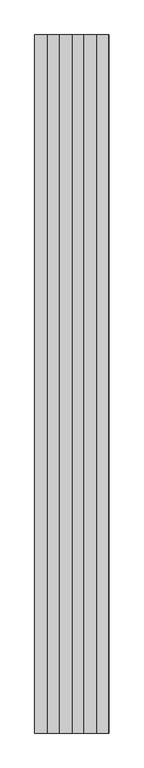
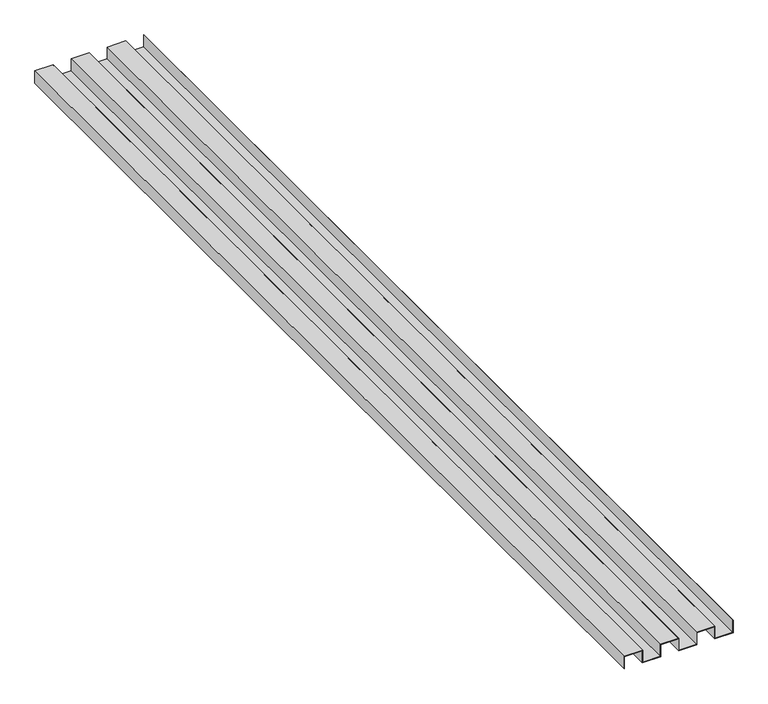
"""IFC4 building model written with IfcOpenShell, lengths in millimetres: proxy geometry, AQUAPLAST - Lamel elewacyjny : Lamel elewacyjny."""

from ifc_helpers import new_model, si_unit, frame, origin, place, context, project, spatial, polyline, outline, extrude, source, transform, mapped, element, save


def specialty_equipment_b687ae0d(model_context):
    return source(origin(), model_context, "Body", "SweptSolid", [
        extrude(outline(polyline([(0.0, 158.4), (38.0, 158.4), (38.0, 157.6), (0.8, 157.6), (0.8, 105.1), (38.0, 105.1), (38.0, 51.0), (0.8, 51.0), (0.8, -1.2), (38.0, -1.2), (38.0, -55.3), (0.8, -55.3), (0.8, -107.5), (38.0, -107.5), (38.0, -161.6), (0.0, -161.6), (0.0, -160.8), (37.2, -160.8), (37.2, -108.3), (0.0, -108.3), (0.0, -54.5), (37.2, -54.5), (37.2, -2.0), (0.0, -2.0), (0.0, 51.8), (37.2, 51.8), (37.2, 104.3), (0.0, 104.3), (0.0, 158.4)])), frame((0.0, -3000.0, 0.0), z_axis=(0.0, 1.0, 0.0), x_axis=(0.0, 0.0, 1.0)), (0.0, 0.0, 1.0), 3000.0),
    ])


if __name__ == "__main__":
    model = new_model("IFC4")
    model_context = context("Model", 3, world=origin())
    ifc_project = project(units=[si_unit("LENGTHUNIT", "METRE", prefix="MILLI")], contexts=[model_context])
    site = spatial("IfcSite", under=ifc_project)
    building = spatial("IfcBuilding", under=site)
    placement = place(None, origin())
    specialty_equipment_shape = specialty_equipment_b687ae0d(model_context)
    element("IfcBuildingElementProxy", 1, Name="AQUAPLAST - Lamel elewacyjny : Lamel elewacyjny", ObjectType="AQUAPLAST - Lamel elewacyjny : Lamel elewacyjny", at=placement, inside=building, context=model_context, shape_type="MappedRepresentation", body=[
        mapped(specialty_equipment_shape, transform((0.0, 0.0, 0.0), x_axis=(1.0, 0.0, 0.0), y_axis=(0.0, 1.0, 0.0), z_axis=(0.0, 0.0, 1.0))),
    ])
    save(model, "model.ifc")
